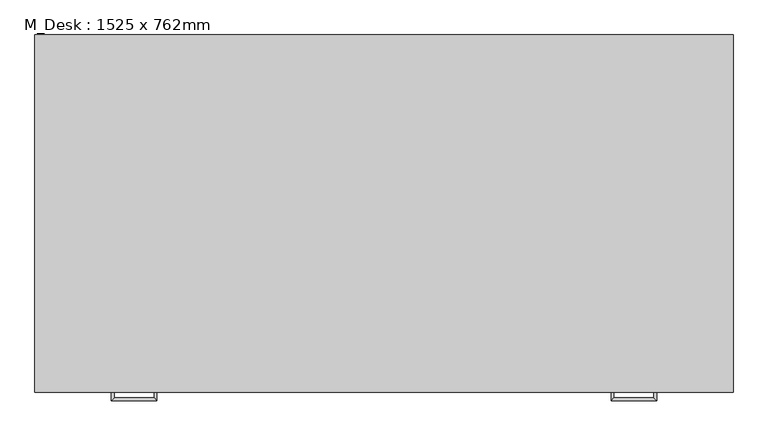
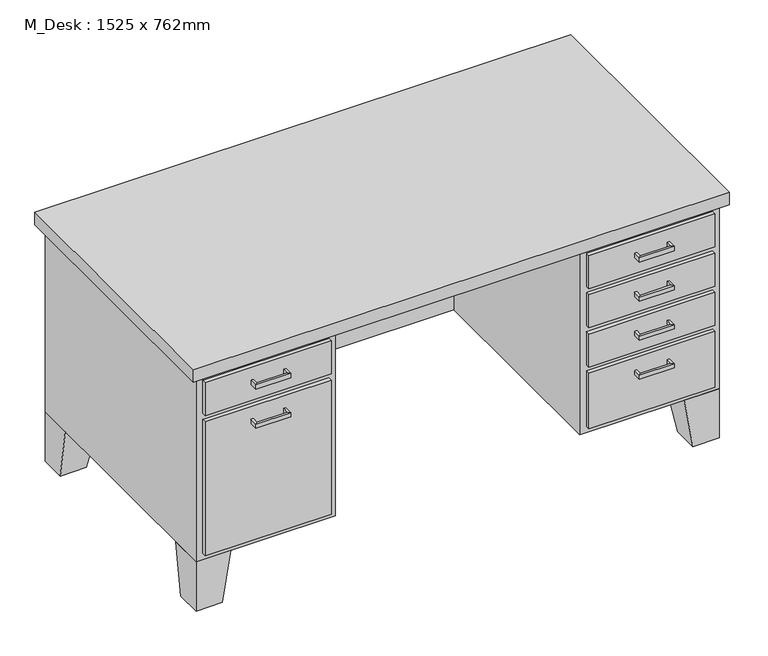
"""IFC4 building model written with IfcOpenShell, lengths in millimetres: furniture geometry, M_Desk : 1525 x 762mm."""

from ifc_helpers import new_model, si_unit, frame, origin, place, context, project, spatial, polyline, outline, extrude, faceted_brep, source, transform, mapped, element, save


def m_desk_1525_x_762mm_34485ced(model_context):
    return source(origin(), model_context, "Body", "SolidModel", [
        extrude(outline(polyline([(1118.1, 0.0), (1118.1, 635.0), (405.9, 635.0), (405.9, 0.0), (-0.5, 0.0), (-0.5, 762.0), (1524.5, 762.0), (1524.5, 0.0), (1118.1, 0.0)])), frame((0.0, 0.0, 152.0), z_axis=(0.0, 0.0, 1.0), x_axis=(1.0, 0.0, 0.0)), (0.0, 0.0, 1.0), 571.9),
        extrude(outline(polyline([(-19.55, -19.05), (-19.55, 781.05), (1543.55, 781.05), (1543.55, -19.05), (-19.55, -19.05)])), frame((0.0, 0.0, 723.9), z_axis=(0.0, 0.0, 1.0), x_axis=(1.0, 0.0, 0.0)), (0.0, 0.0, 1.0), 38.1),
        faceted_brep([(1422.9, 0.0, 152.0), (1524.5, 0.0, 152.0), (1524.5, 101.6, 152.0), (1422.9, 101.6, 152.0), (1448.3, 0.0, 0.0), (1448.3, 76.2, 0.0), (1524.5, 76.2, 0.0), (1524.5, 0.0, 0.0)], [[[0, 1, 2, 3]], [[4, 5, 6, 7]], [[4, 7, 1, 0]], [[7, 6, 2, 1]], [[6, 5, 3, 2]], [[5, 4, 0, 3]]]),
        faceted_brep([(1422.9, 762.0, 152.0), (1422.9, 660.4, 152.0), (1524.5, 660.4, 152.0), (1524.5, 762.0, 152.0), (1448.3, 762.0, 0.0), (1524.5, 762.0, 0.0), (1524.5, 685.8, 0.0), (1448.3, 685.8, 0.0)], [[[0, 1, 2, 3]], [[4, 5, 6, 7]], [[4, 7, 1, 0]], [[7, 6, 2, 1]], [[6, 5, 3, 2]], [[5, 4, 0, 3]]]),
        faceted_brep([(101.1, 762.0, 152.0), (-0.5, 762.0, 152.0), (-0.5, 660.4, 152.0), (101.1, 660.4, 152.0), (75.7, 762.0, 0.0), (75.7, 685.8, 0.0), (-0.5, 685.8, 0.0), (-0.5, 762.0, 0.0)], [[[0, 1, 2, 3]], [[4, 5, 6, 7]], [[4, 7, 1, 0]], [[7, 6, 2, 1]], [[6, 5, 3, 2]], [[5, 4, 0, 3]]]),
        faceted_brep([(101.1, 0.0, 152.0), (101.1, 101.6, 152.0), (-0.5, 101.6, 152.0), (-0.5, 0.0, 152.0), (75.7, 0.0, 0.0), (-0.5, 0.0, 0.0), (-0.5, 76.2, 0.0), (75.7, 76.2, 0.0)], [[[0, 1, 2, 3]], [[4, 5, 6, 7]], [[4, 7, 1, 0]], [[7, 6, 2, 1]], [[6, 5, 3, 2]], [[5, 4, 0, 3]]]),
        extrude(outline(polyline([(1137.15, 0.0), (1505.45, 0.0), (1505.45, -12.7), (1137.15, -12.7), (1137.15, 0.0)])), frame((0.0, 0.0, 602.85), z_axis=(0.0, 0.0, 1.0), x_axis=(1.0, 0.0, 0.0)), (0.0, 0.0, 1.0), 102.0),
        extrude(outline(polyline([(1137.15, 0.0), (1505.45, 0.0), (1505.45, -12.7), (1137.15, -12.7), (1137.15, 0.0)])), frame((0.0, 0.0, 171.05), z_axis=(0.0, 0.0, 1.0), x_axis=(1.0, 0.0, 0.0)), (0.0, 0.0, 1.0), 171.45),
        extrude(outline(polyline([(1137.15, 0.0), (1505.45, 0.0), (1505.45, -12.7), (1137.15, -12.7), (1137.15, 0.0)])), frame((0.0, 0.0, 482.2), z_axis=(0.0, 0.0, 1.0), x_axis=(1.0, 0.0, 0.0)), (0.0, 0.0, 1.0), 101.6),
        extrude(outline(polyline([(1137.15, 0.0), (1505.45, 0.0), (1505.45, -12.7), (1137.15, -12.7), (1137.15, 0.0)])), frame((0.0, 0.0, 361.55), z_axis=(0.0, 0.0, 1.0), x_axis=(1.0, 0.0, 0.0)), (0.0, 0.0, 1.0), 101.6),
        extrude(outline(polyline([(18.55, 0.0), (386.85, 0.0), (386.85, -12.7), (18.55, -12.7), (18.55, 0.0)])), frame((0.0, 0.0, 603.25), z_axis=(0.0, 0.0, 1.0), x_axis=(1.0, 0.0, 0.0)), (0.0, 0.0, 1.0), 101.6),
        extrude(outline(polyline([(18.55, 0.0), (386.85, 0.0), (386.85, -12.7), (18.55, -12.7), (18.55, 0.0)])), frame((0.0, 0.0, 171.05), z_axis=(0.0, 0.0, 1.0), x_axis=(1.0, 0.0, 0.0)), (0.0, 0.0, 1.0), 413.15),
        faceted_brep([(1365.75, -12.7, 304.8), (1372.1, -12.7, 304.8), (1372.1, -12.7, 292.1), (1365.75, -12.7, 292.1), (1365.75, -31.75, 304.8), (1372.1, -38.1, 304.8), (1372.1, -38.1, 292.1), (1365.75, -31.75, 292.1), (1276.85, -31.75, 304.8), (1270.5, -38.1, 304.8), (1270.5, -38.1, 292.1), (1276.85, -31.75, 292.1), (1276.85, -12.7, 304.8), (1276.85, -12.7, 292.1), (1270.5, -12.7, 292.1), (1270.5, -12.7, 304.8)], [[[0, 1, 2, 3]], [[1, 0, 4, 5]], [[2, 1, 5, 6]], [[3, 2, 6, 7]], [[0, 3, 7, 4]], [[5, 4, 8, 9]], [[6, 5, 9, 10]], [[7, 6, 10, 11]], [[4, 7, 11, 8]], [[12, 13, 14, 15]], [[9, 8, 12, 15]], [[10, 9, 15, 14]], [[11, 10, 14, 13]], [[8, 11, 13, 12]]]),
        faceted_brep([(1365.75, -12.7, 425.45), (1372.1, -12.7, 425.45), (1372.1, -12.7, 412.75), (1365.75, -12.7, 412.75), (1365.75, -31.75, 425.45), (1372.1, -38.1, 425.45), (1372.1, -38.1, 412.75), (1365.75, -31.75, 412.75), (1276.85, -31.75, 425.45), (1270.5, -38.1, 425.45), (1270.5, -38.1, 412.75), (1276.85, -31.75, 412.75), (1276.85, -12.7, 425.45), (1276.85, -12.7, 412.75), (1270.5, -12.7, 412.75), (1270.5, -12.7, 425.45)], [[[0, 1, 2, 3]], [[1, 0, 4, 5]], [[2, 1, 5, 6]], [[3, 2, 6, 7]], [[0, 3, 7, 4]], [[5, 4, 8, 9]], [[6, 5, 9, 10]], [[7, 6, 10, 11]], [[4, 7, 11, 8]], [[12, 13, 14, 15]], [[9, 8, 12, 15]], [[10, 9, 15, 14]], [[11, 10, 14, 13]], [[8, 11, 13, 12]]]),
        faceted_brep([(1365.75, -12.7, 546.1), (1372.1, -12.7, 546.1), (1372.1, -12.7, 533.4), (1365.75, -12.7, 533.4), (1365.75, -31.75, 546.1), (1372.1, -38.1, 546.1), (1372.1, -38.1, 533.4), (1365.75, -31.75, 533.4), (1276.85, -31.75, 546.1), (1270.5, -38.1, 546.1), (1270.5, -38.1, 533.4), (1276.85, -31.75, 533.4), (1276.85, -12.7, 546.1), (1276.85, -12.7, 533.4), (1270.5, -12.7, 533.4), (1270.5, -12.7, 546.1)], [[[0, 1, 2, 3]], [[1, 0, 4, 5]], [[2, 1, 5, 6]], [[3, 2, 6, 7]], [[0, 3, 7, 4]], [[5, 4, 8, 9]], [[6, 5, 9, 10]], [[7, 6, 10, 11]], [[4, 7, 11, 8]], [[12, 13, 14, 15]], [[9, 8, 12, 15]], [[10, 9, 15, 14]], [[11, 10, 14, 13]], [[8, 11, 13, 12]]]),
        faceted_brep([(1365.75, -12.7, 666.75), (1372.1, -12.7, 666.75), (1372.1, -12.7, 654.05), (1365.75, -12.7, 654.05), (1365.75, -31.75, 666.75), (1372.1, -38.1, 666.75), (1372.1, -38.1, 654.05), (1365.75, -31.75, 654.05), (1276.85, -31.75, 666.75), (1270.5, -38.1, 666.75), (1270.5, -38.1, 654.05), (1276.85, -31.75, 654.05), (1276.85, -12.7, 666.75), (1276.85, -12.7, 654.05), (1270.5, -12.7, 654.05), (1270.5, -12.7, 666.75)], [[[0, 1, 2, 3]], [[1, 0, 4, 5]], [[2, 1, 5, 6]], [[3, 2, 6, 7]], [[0, 3, 7, 4]], [[5, 4, 8, 9]], [[6, 5, 9, 10]], [[7, 6, 10, 11]], [[4, 7, 11, 8]], [[12, 13, 14, 15]], [[9, 8, 12, 15]], [[10, 9, 15, 14]], [[11, 10, 14, 13]], [[8, 11, 13, 12]]]),
        faceted_brep([(158.25, -12.7, 546.1), (158.25, -12.7, 533.4), (151.9, -12.7, 533.4), (151.9, -12.7, 546.1), (158.25, -31.75, 546.1), (158.25, -31.75, 533.4), (151.9, -38.1, 533.4), (151.9, -38.1, 546.1), (247.15, -31.75, 546.1), (247.15, -31.75, 533.4), (253.5, -38.1, 533.4), (253.5, -38.1, 546.1), (247.15, -12.7, 546.1), (253.5, -12.7, 546.1), (253.5, -12.7, 533.4), (247.15, -12.7, 533.4)], [[[0, 1, 2, 3]], [[1, 0, 4, 5]], [[2, 1, 5, 6]], [[3, 2, 6, 7]], [[0, 3, 7, 4]], [[5, 4, 8, 9]], [[6, 5, 9, 10]], [[7, 6, 10, 11]], [[4, 7, 11, 8]], [[12, 13, 14, 15]], [[9, 8, 12, 15]], [[10, 9, 15, 14]], [[11, 10, 14, 13]], [[8, 11, 13, 12]]]),
        faceted_brep([(158.25, -12.7, 666.75), (158.25, -12.7, 654.05), (151.9, -12.7, 654.05), (151.9, -12.7, 666.75), (158.25, -31.75, 666.75), (158.25, -31.75, 654.05), (151.9, -38.1, 654.05), (151.9, -38.1, 666.75), (247.15, -31.75, 666.75), (247.15, -31.75, 654.05), (253.5, -38.1, 654.05), (253.5, -38.1, 666.75), (247.15, -12.7, 666.75), (253.5, -12.7, 666.75), (253.5, -12.7, 654.05), (247.15, -12.7, 654.05)], [[[0, 1, 2, 3]], [[1, 0, 4, 5]], [[2, 1, 5, 6]], [[3, 2, 6, 7]], [[0, 3, 7, 4]], [[5, 4, 8, 9]], [[6, 5, 9, 10]], [[7, 6, 10, 11]], [[4, 7, 11, 8]], [[12, 13, 14, 15]], [[9, 8, 12, 15]], [[10, 9, 15, 14]], [[11, 10, 14, 13]], [[8, 11, 13, 12]]]),
    ])


if __name__ == "__main__":
    model = new_model("IFC4")
    model_context = context("Model", 3, world=origin())
    ifc_project = project(units=[si_unit("LENGTHUNIT", "METRE", prefix="MILLI")], contexts=[model_context])
    site = spatial("IfcSite", under=ifc_project)
    building = spatial("IfcBuilding", under=site)
    placement = place(None, origin())
    m_desk_1525_x_762mm_shape = m_desk_1525_x_762mm_34485ced(model_context)
    element("IfcFurniture", 1, ObjectType="M_Desk : 1525 x 762mm", at=placement, inside=building, context=model_context, shape_type="MappedRepresentation", body=[
        mapped(m_desk_1525_x_762mm_shape, transform((0.0, 0.0, 0.0), x_axis=(1.0, 0.0, 0.0), y_axis=(0.0, 1.0, 0.0), z_axis=(0.0, 0.0, 1.0))),
    ])
    save(model, "model.ifc")
